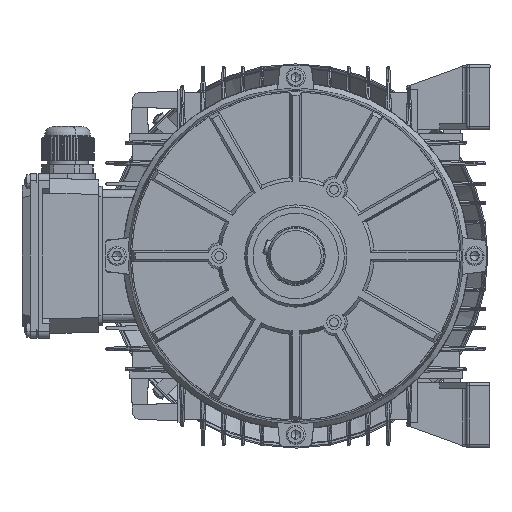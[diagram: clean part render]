
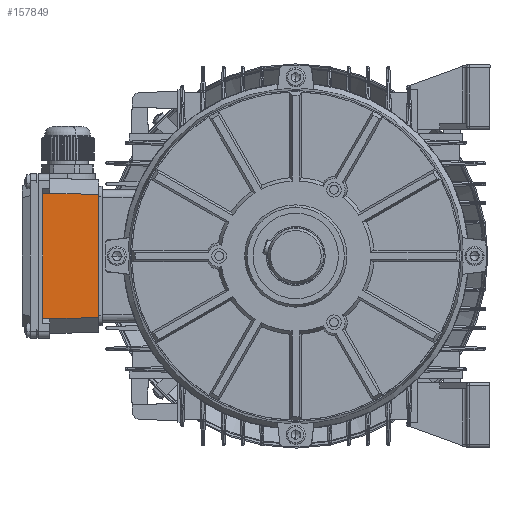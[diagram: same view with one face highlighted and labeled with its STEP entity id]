
A CAD part, left-side view. The second image highlights one B-rep face of the part: STEP entity #157849.
In plain terms, the highlighted planar face has unit normal (-0.999, -0.035, 0) as drawn and (0, -0.035, 0.999) by its records, which use the part's own axes.
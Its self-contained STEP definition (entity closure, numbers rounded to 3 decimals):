
#4379 = ORIENTED_EDGE ( 'NONE', *, *, #43717, .F. ) ;
#8757 = VERTEX_POINT ( 'NONE', #26046 ) ;
#9044 = ORIENTED_EDGE ( 'NONE', *, *, #81197, .F. ) ;
#12847 = CARTESIAN_POINT ( 'NONE',  ( -42.5, -38., 51.673 ) ) ;
#16327 = DIRECTION ( 'NONE',  ( 0.014, 0.999, 0.035 ) ) ;
#23186 = VECTOR ( 'NONE', #105674, 1000. ) ;
#26046 = CARTESIAN_POINT ( 'NONE',  ( 42.5, 0., 53. ) ) ;
#26444 = DIRECTION ( 'NONE',  ( 0., -0.999, -0.035 ) ) ;
#29611 = VERTEX_POINT ( 'NONE', #62355 ) ;
#31518 = LINE ( 'NONE', #12847, #35758 ) ;
#32226 = ORIENTED_EDGE ( 'NONE', *, *, #106443, .T. ) ;
#32993 = DIRECTION ( 'NONE',  ( 1., 0., 0. ) ) ;
#34971 = CARTESIAN_POINT ( 'NONE',  ( 42.482, -1.228, 52.957 ) ) ;
#35758 = VECTOR ( 'NONE', #176304, 1000. ) ;
#43717 = EDGE_CURVE ( 'NONE', #134954, #8757, #70237, .T. ) ;
#45112 = DIRECTION ( 'NONE',  ( 0., -0.035, 0.999 ) ) ;
#46527 = CARTESIAN_POINT ( 'NONE',  ( 41.95, -38., 51.673 ) ) ;
#51599 = CARTESIAN_POINT ( 'NONE',  ( -42.5, 0., 53. ) ) ;
#55711 = VECTOR ( 'NONE', #16327, 1000. ) ;
#62355 = CARTESIAN_POINT ( 'NONE',  ( -41.95, -38., 51.673 ) ) ;
#63698 = CARTESIAN_POINT ( 'NONE',  ( -42.5, 0., 53. ) ) ;
#70237 = LINE ( 'NONE', #51599, #95507 ) ;
#81197 = EDGE_CURVE ( 'NONE', #29611, #134954, #143057, .T. ) ;
#85461 = EDGE_LOOP ( 'NONE', ( #4379, #9044, #173250, #32226 ) ) ;
#95507 = VECTOR ( 'NONE', #32993, 1000. ) ;
#100743 = FACE_OUTER_BOUND ( 'NONE', #85461, .T. ) ;
#101014 = VERTEX_POINT ( 'NONE', #46527 ) ;
#105674 = DIRECTION ( 'NONE',  ( -0.014, 0.999, 0.035 ) ) ;
#106443 = EDGE_CURVE ( 'NONE', #101014, #8757, #109540, .T. ) ;
#109540 = LINE ( 'NONE', #34971, #55711 ) ;
#124208 = AXIS2_PLACEMENT_3D ( 'NONE', #63698, #45112, #26444 ) ;
#124356 = CARTESIAN_POINT ( 'NONE',  ( -42.497, -0.214, 52.993 ) ) ;
#134954 = VERTEX_POINT ( 'NONE', #158570 ) ;
#138377 = PLANE ( 'NONE',  #124208 ) ;
#143057 = LINE ( 'NONE', #124356, #23186 ) ;
#157849 = ADVANCED_FACE ( 'NONE', ( #100743 ), #138377, .T. ) ;
#158570 = CARTESIAN_POINT ( 'NONE',  ( -42.5, 0., 53. ) ) ;
#166508 = EDGE_CURVE ( 'NONE', #29611, #101014, #31518, .T. ) ;
#173250 = ORIENTED_EDGE ( 'NONE', *, *, #166508, .T. ) ;
#176304 = DIRECTION ( 'NONE',  ( 1., 0., 0. ) ) ;
